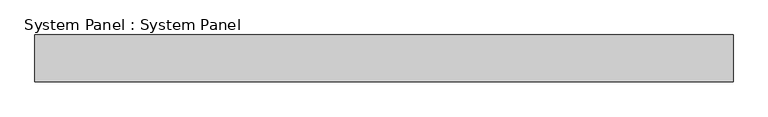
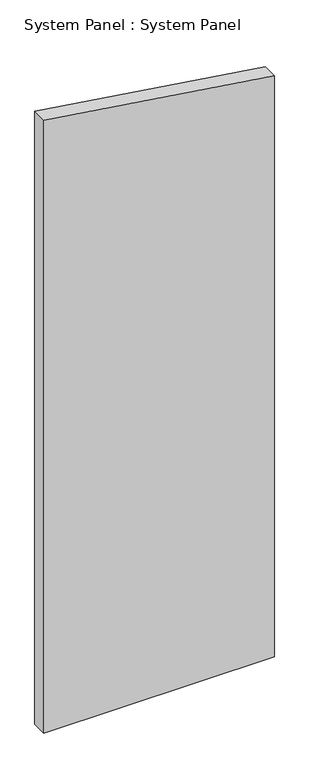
"""IFC4 building model written with IfcOpenShell, lengths in millimetres: plate geometry, System Panel : System Panel."""

from ifc_helpers import new_model, si_unit, frame, origin, place, context, project, spatial, polyline, outline, extrude, source, transform, mapped, element, save


def system_panel_system_panel_943f1462(model_context):
    return source(origin(), model_context, "Body", "SweptSolid", [
        extrude(outline(polyline([(0.0, 760.129494), (4046.95008, 760.129494), (4269.7066492, -760.129494), (0.0, -760.129494), (0.0, 760.129494)])), frame((0.0, -50.8, 0.0), z_axis=(0.0, 1.0, 0.0), x_axis=(0.0, 0.0, 1.0)), (0.0, 0.0, 1.0), 101.6),
    ])


if __name__ == "__main__":
    model = new_model("IFC4")
    model_context = context("Model", 3, world=origin())
    ifc_project = project(units=[si_unit("LENGTHUNIT", "METRE", prefix="MILLI")], contexts=[model_context])
    site = spatial("IfcSite", under=ifc_project)
    building = spatial("IfcBuilding", under=site)
    placement = place(None, origin())
    system_panel_system_panel_shape = system_panel_system_panel_943f1462(model_context)
    element("IfcPlate", 1, ObjectType="System Panel : System Panel", at=placement, inside=building, context=model_context, shape_type="MappedRepresentation", body=[
        mapped(system_panel_system_panel_shape, transform((0.0, 0.0, 0.0), x_axis=(1.0, 0.0, 0.0), y_axis=(0.0, 1.0, 0.0), z_axis=(0.0, 0.0, 1.0))),
    ])
    save(model, "model.ifc")
